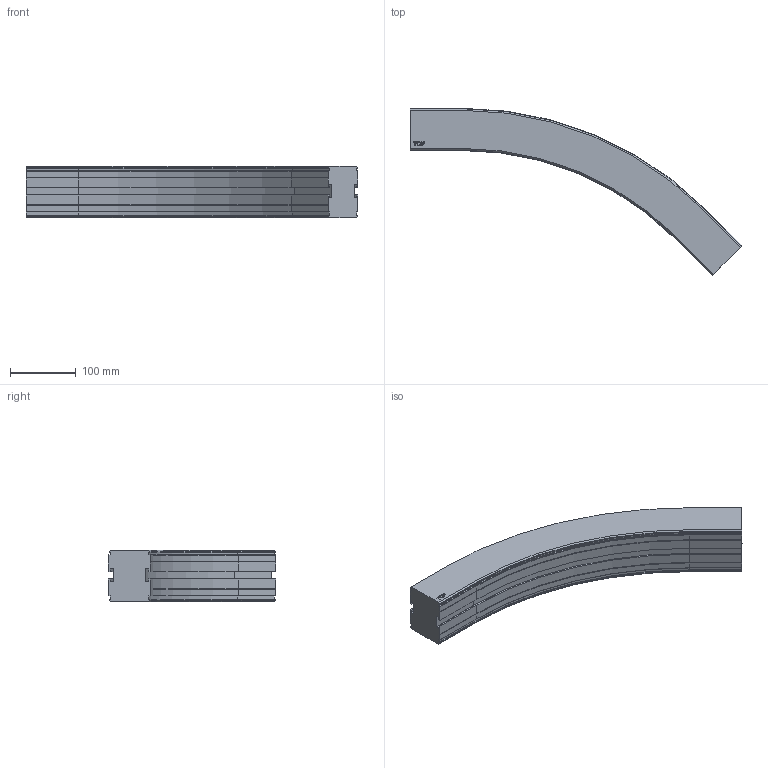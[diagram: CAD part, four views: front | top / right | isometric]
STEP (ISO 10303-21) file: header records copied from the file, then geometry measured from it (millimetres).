
FILE_DESCRIPTION((''),'2;1');
FILE_NAME('C:\Vault Klient\Projekt\Koncept konstruktion\Serie 620 Balk\620-5300.stp','2009-11-26T15:09:56',('Mathias'),(''),'Autodesk Inventor 2010','Autodesk Inventor 2010','');
FILE_SCHEMA(('AUTOMOTIVE_DESIGN { 1 0 10303 214 1 1 1 1 }'));
Length unit declared in the file: millimetre
Products named in the file (1): 620-5300
Bounding box: 504.97 x 254.42 x 78 mm (x, y, z)
Volume: 2530111.6 mm3; surface area: 205449.6 mm2
Topology: 1 solids, 1 shells, 169 faces, 446 edges, 284 vertices
Faces by surface type: plane 109, cylinder 30, bspline 14, cone 12, torus 4
Entity records: 5295 total; most frequent: CARTESIAN_POINT 1094, ORIENTED_EDGE 892, DIRECTION 802, EDGE_CURVE 446, VECTOR 346, LINE 346, VERTEX_POINT 284, AXIS2_PLACEMENT_3D 228
